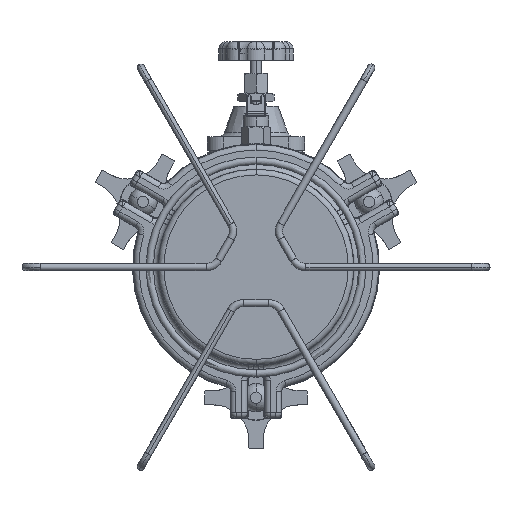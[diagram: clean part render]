
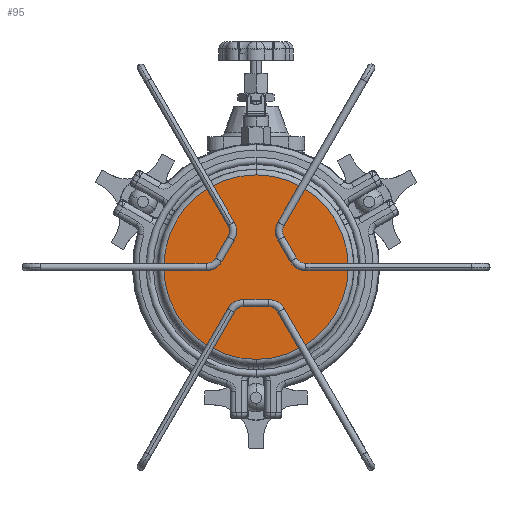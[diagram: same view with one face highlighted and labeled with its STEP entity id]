
A CAD part, front view. The second image highlights one B-rep face of the part: STEP entity #95.
In plain terms, the highlighted planar face has unit normal (0, -1, 0).
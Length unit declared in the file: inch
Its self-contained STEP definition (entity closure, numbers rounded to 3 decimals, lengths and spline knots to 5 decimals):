
#95 = ADVANCED_FACE ( 'NONE', ( #91161 ), #68737, .F. ) ;
#3776 = CIRCLE ( 'NONE', #111128, 2.02 ) ;
#8505 = DIRECTION ( 'NONE',  ( 0., 0., 1. ) ) ;
#17696 = VERTEX_POINT ( 'NONE', #24023 ) ;
#17985 = CARTESIAN_POINT ( 'NONE',  ( 0., 0., 0. ) ) ;
#18745 = AXIS2_PLACEMENT_3D ( 'NONE', #102564, #94314, #8505 ) ;
#21510 = DIRECTION ( 'NONE',  ( 0., 0., 1. ) ) ;
#24023 = CARTESIAN_POINT ( 'NONE',  ( 0., 0., 2.02 ) ) ;
#28077 = VERTEX_POINT ( 'NONE', #57843 ) ;
#31699 = ORIENTED_EDGE ( 'NONE', *, *, #97377, .T. ) ;
#35327 = DIRECTION ( 'NONE',  ( 0., 0., 1. ) ) ;
#42446 = CIRCLE ( 'NONE', #111135, 2.02 ) ;
#47966 = EDGE_CURVE ( 'NONE', #28077, #17696, #3776, .T. ) ;
#57843 = CARTESIAN_POINT ( 'NONE',  ( 0., 0., -2.02 ) ) ;
#58646 = EDGE_LOOP ( 'NONE', ( #31699, #104046 ) ) ;
#64377 = DIRECTION ( 'NONE',  ( 0., -1., 0. ) ) ;
#68737 = PLANE ( 'NONE',  #18745 ) ;
#78171 = DIRECTION ( 'NONE',  ( 0., -1., 0. ) ) ;
#91161 = FACE_OUTER_BOUND ( 'NONE', #58646, .T. ) ;
#94314 = DIRECTION ( 'NONE',  ( 0., 1., 0. ) ) ;
#97377 = EDGE_CURVE ( 'NONE', #17696, #28077, #42446, .T. ) ;
#102564 = CARTESIAN_POINT ( 'NONE',  ( 0., 0., 0. ) ) ;
#104046 = ORIENTED_EDGE ( 'NONE', *, *, #47966, .T. ) ;
#107532 = CARTESIAN_POINT ( 'NONE',  ( 0., 0., 0. ) ) ;
#111128 = AXIS2_PLACEMENT_3D ( 'NONE', #107532, #64377, #21510 ) ;
#111135 = AXIS2_PLACEMENT_3D ( 'NONE', #17985, #78171, #35327 ) ;
